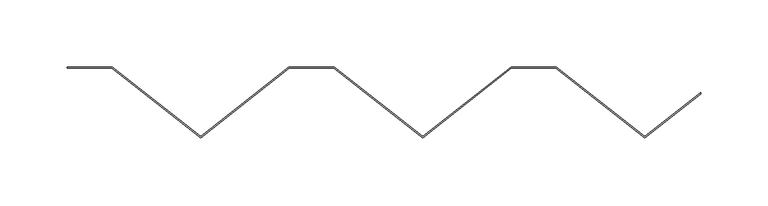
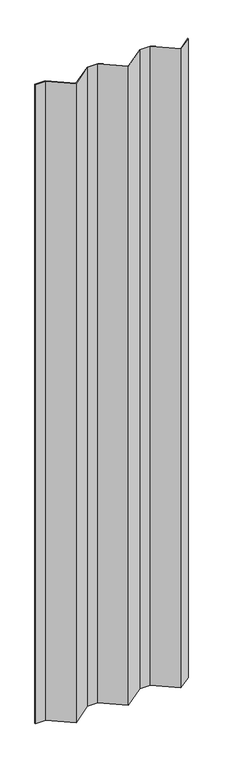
"""IFC4 building model written with IfcOpenShell, lengths in millimetres: plate geometry, HIANSA - H20.F09.008-CHAPA PERFILADA FACHADA VERTICAL - MT53MA6 - Panel de Muro Cortina : -."""

from ifc_helpers import new_model, si_unit, origin, origin_with_axes, place, context, project, spatial, polyline, outline, extrude, source, transform, mapped, element, save


def plate_b4517af3(model_context):
    return source(origin(), model_context, "Body", "SweptSolid", [
        extrude(outline(polyline([(192.3614361, -51.7433424), (233.9999998, -18.9614751), (233.9999998, -19.979657), (192.3614361, -52.7615242), (126.3614361, -0.8), (93.3614361, -0.8), (27.3614361, -52.7615242), (-38.6385639, -0.8), (-71.6385639, -0.8), (-137.6385639, -52.7615242), (-203.6385639, -0.8), (-236.6385639, -0.8), (-236.6385639, 0.0), (-203.3614358, 0.0), (-137.6385639, -51.7433424), (-71.915692, 0.0), (-38.3614358, 0.0), (27.3614361, -51.7433424), (93.084308, 0.0), (126.6385642, 0.0), (192.3614361, -51.7433424)])), origin_with_axes(), (0.0, 0.0, 1.0), 2128.0),
    ])


if __name__ == "__main__":
    model = new_model("IFC4")
    model_context = context("Model", 3, world=origin())
    ifc_project = project(units=[si_unit("LENGTHUNIT", "METRE", prefix="MILLI")], contexts=[model_context])
    site = spatial("IfcSite", under=ifc_project)
    building = spatial("IfcBuilding", under=site)
    placement = place(None, origin())
    plate_shape = plate_b4517af3(model_context)
    element("IfcPlate", 1, ObjectType="HIANSA - H20.F09.008-CHAPA PERFILADA FACHADA VERTICAL - MT53MA6 - Panel de Muro Cortina : -", at=placement, inside=building, context=model_context, shape_type="MappedRepresentation", body=[
        mapped(plate_shape, transform((0.0, 0.0, 0.0), x_axis=(1.0, 0.0, 0.0), y_axis=(0.0, 1.0, 0.0), z_axis=(0.0, 0.0, 1.0))),
    ])
    save(model, "model.ifc")
